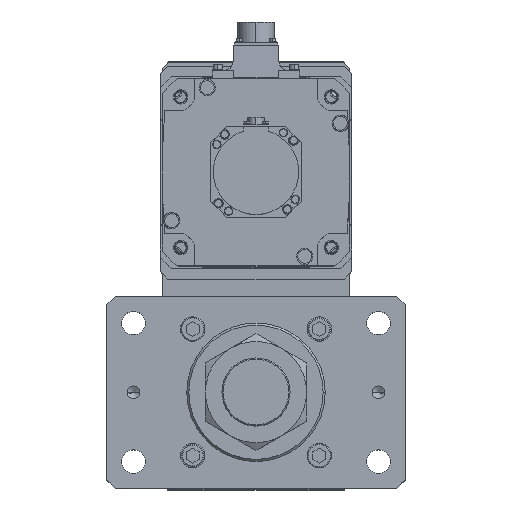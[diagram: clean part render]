
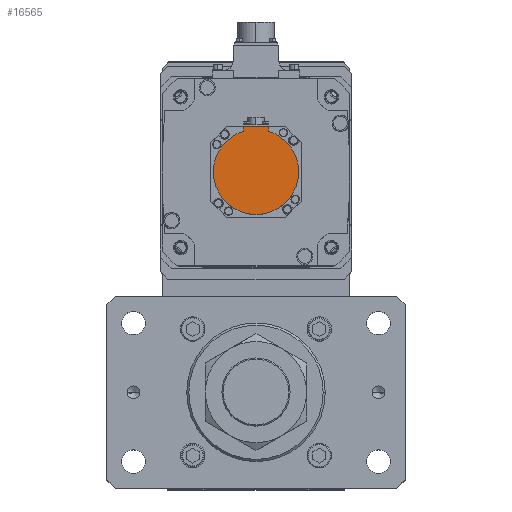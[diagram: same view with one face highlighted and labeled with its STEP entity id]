
A CAD part, top view. The second image highlights one B-rep face of the part: STEP entity #16565.
In plain terms, the highlighted planar face has unit normal (0, 0, 1) as drawn and (0, 0, -1) by its records, which use the part's own axes.
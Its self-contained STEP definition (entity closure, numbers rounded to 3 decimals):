
#2733 = CARTESIAN_POINT ( 'NONE',  ( 12., -1.249, -178.5 ) ) ;
#5962 = VERTEX_POINT ( 'NONE', #17114 ) ;
#6125 = ORIENTED_EDGE ( 'NONE', *, *, #45080, .F. ) ;
#6199 = EDGE_CURVE ( 'NONE', #12613, #9963, #35126, .T. ) ;
#7076 = EDGE_CURVE ( 'NONE', #9963, #52586, #33763, .T. ) ;
#7145 = AXIS2_PLACEMENT_3D ( 'NONE', #52654, #48789, #21476 ) ;
#8076 = CARTESIAN_POINT ( 'NONE',  ( -40., 0., -178.5 ) ) ;
#9080 = EDGE_CURVE ( 'NONE', #48729, #12613, #20220, .T. ) ;
#9963 = VERTEX_POINT ( 'NONE', #10300 ) ;
#10300 = CARTESIAN_POINT ( 'NONE',  ( 40., 0., -178.5 ) ) ;
#10813 = CARTESIAN_POINT ( 'NONE',  ( 12., -42.5, -178.5 ) ) ;
#11093 = EDGE_CURVE ( 'NONE', #48729, #5962, #25712, .T. ) ;
#12613 = VERTEX_POINT ( 'NONE', #20208 ) ;
#13662 = EDGE_LOOP ( 'NONE', ( #39640, #6125, #31016, #13791, #18460, #45145 ) ) ;
#13791 = ORIENTED_EDGE ( 'NONE', *, *, #6199, .F. ) ;
#15955 = DIRECTION ( 'NONE',  ( -1., 0., 0. ) ) ;
#16565 = ADVANCED_FACE ( 'NONE', ( #25456 ), #22032, .F. ) ;
#17114 = CARTESIAN_POINT ( 'NONE',  ( -12., -42.5, -178.5 ) ) ;
#17979 = CARTESIAN_POINT ( 'NONE',  ( -12., -40.329, -178.5 ) ) ;
#18460 = ORIENTED_EDGE ( 'NONE', *, *, #9080, .F. ) ;
#20208 = CARTESIAN_POINT ( 'NONE',  ( 12., -38.158, -178.5 ) ) ;
#20220 = LINE ( 'NONE', #2733, #46280 ) ;
#20667 = CARTESIAN_POINT ( 'NONE',  ( 0., 0., -178.5 ) ) ;
#21476 = DIRECTION ( 'NONE',  ( 1., 0., 0. ) ) ;
#22032 = PLANE ( 'NONE',  #39249 ) ;
#25456 = FACE_OUTER_BOUND ( 'NONE', #13662, .T. ) ;
#25712 = LINE ( 'NONE', #44248, #37791 ) ;
#28643 = DIRECTION ( 'NONE',  ( 1., 0., 0. ) ) ;
#29640 = DIRECTION ( 'NONE',  ( 0., 0., 1. ) ) ;
#31016 = ORIENTED_EDGE ( 'NONE', *, *, #7076, .F. ) ;
#31126 = CARTESIAN_POINT ( 'NONE',  ( -12., -38.158, -178.5 ) ) ;
#31172 = DIRECTION ( 'NONE',  ( 0., 1., 0. ) ) ;
#32694 = CARTESIAN_POINT ( 'NONE',  ( 0., -1.249, -178.5 ) ) ;
#33527 = DIRECTION ( 'NONE',  ( 0., 0., 1. ) ) ;
#33698 = DIRECTION ( 'NONE',  ( 1., 0., 0. ) ) ;
#33717 = AXIS2_PLACEMENT_3D ( 'NONE', #20667, #37498, #28643 ) ;
#33763 = CIRCLE ( 'NONE', #7145, 40. ) ;
#35126 = CIRCLE ( 'NONE', #33717, 40. ) ;
#35189 = VECTOR ( 'NONE', #38052, 1000. ) ;
#36291 = AXIS2_PLACEMENT_3D ( 'NONE', #45608, #33527, #33698 ) ;
#36754 = DIRECTION ( 'NONE',  ( 1., 0., 0. ) ) ;
#37498 = DIRECTION ( 'NONE',  ( 0., 0., 1. ) ) ;
#37791 = VECTOR ( 'NONE', #15955, 1000. ) ;
#38052 = DIRECTION ( 'NONE',  ( 0., 1., 0. ) ) ;
#39249 = AXIS2_PLACEMENT_3D ( 'NONE', #32694, #29640, #36754 ) ;
#39640 = ORIENTED_EDGE ( 'NONE', *, *, #47319, .T. ) ;
#41668 = CIRCLE ( 'NONE', #36291, 40. ) ;
#44248 = CARTESIAN_POINT ( 'NONE',  ( 0., -42.5, -178.5 ) ) ;
#45080 = EDGE_CURVE ( 'NONE', #52586, #45703, #41668, .T. ) ;
#45145 = ORIENTED_EDGE ( 'NONE', *, *, #11093, .T. ) ;
#45608 = CARTESIAN_POINT ( 'NONE',  ( 0., 0., -178.5 ) ) ;
#45703 = VERTEX_POINT ( 'NONE', #31126 ) ;
#46280 = VECTOR ( 'NONE', #31172, 1000. ) ;
#47319 = EDGE_CURVE ( 'NONE', #5962, #45703, #51637, .T. ) ;
#48729 = VERTEX_POINT ( 'NONE', #10813 ) ;
#48789 = DIRECTION ( 'NONE',  ( 0., 0., 1. ) ) ;
#51637 = LINE ( 'NONE', #17979, #35189 ) ;
#52586 = VERTEX_POINT ( 'NONE', #8076 ) ;
#52654 = CARTESIAN_POINT ( 'NONE',  ( 0., 0., -178.5 ) ) ;
